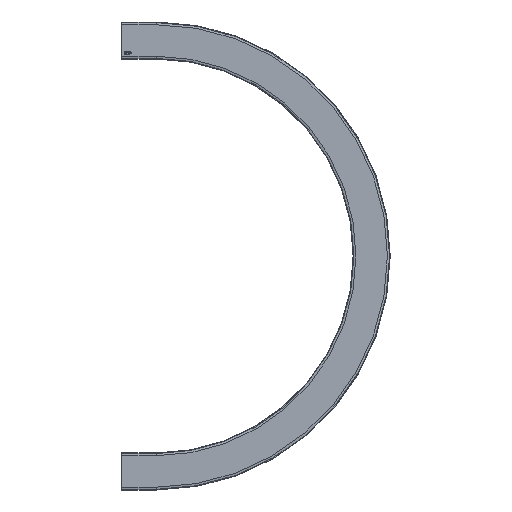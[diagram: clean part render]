
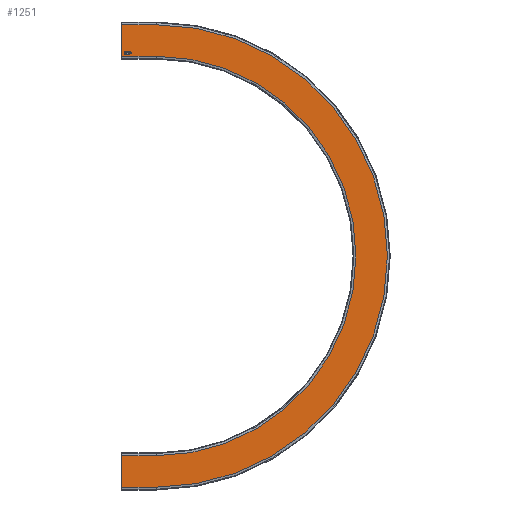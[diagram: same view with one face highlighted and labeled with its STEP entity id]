
A CAD part, top view. The second image highlights one B-rep face of the part: STEP entity #1251.
In plain terms, the highlighted planar face has unit normal (0, 0, 1).
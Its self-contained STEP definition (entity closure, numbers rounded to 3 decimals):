
#243=CARTESIAN_POINT('',(10.621,-29.49,0.0));
#244=VERTEX_POINT('',#243);
#251=CARTESIAN_POINT('',(13.541,-32.563,0.0));
#252=VERTEX_POINT('',#251);
#253=CARTESIAN_POINT('',(13.541,-32.563,0.0));
#254=CARTESIAN_POINT('',(12.676,-32.563,0.0));
#255=CARTESIAN_POINT('',(11.319,-31.731,0.0));
#256=CARTESIAN_POINT('',(10.621,-30.294,0.0));
#257=CARTESIAN_POINT('',(10.621,-29.49,0.0));
#258=QUASI_UNIFORM_CURVE('',2,(#253,#254,#255,#256,#257),.UNSPECIFIED.,.F.,.U.);
#259=EDGE_CURVE('',#252,#244,#258,.T.);
#292=CARTESIAN_POINT('',(16.456,-29.42,0.0));
#293=VERTEX_POINT('',#292);
#294=CARTESIAN_POINT('',(16.456,-29.42,0.0));
#295=CARTESIAN_POINT('',(16.456,-30.346,0.0));
#296=CARTESIAN_POINT('',(15.708,-31.81,0.0));
#297=CARTESIAN_POINT('',(14.331,-32.563,0.0));
#298=CARTESIAN_POINT('',(13.541,-32.563,0.0));
#299=QUASI_UNIFORM_CURVE('',2,(#294,#295,#296,#297,#298),.UNSPECIFIED.,.F.,.U.);
#300=EDGE_CURVE('',#293,#252,#299,.T.);
#333=CARTESIAN_POINT('',(13.541,-26.254,0.0));
#334=VERTEX_POINT('',#333);
#335=CARTESIAN_POINT('',(13.541,-26.254,0.0));
#336=CARTESIAN_POINT('',(14.387,-26.254,0.0));
#337=CARTESIAN_POINT('',(15.745,-27.063,0.0));
#338=CARTESIAN_POINT('',(16.456,-28.504,0.0));
#339=CARTESIAN_POINT('',(16.456,-29.42,0.0));
#340=QUASI_UNIFORM_CURVE('',2,(#335,#336,#337,#338,#339),.UNSPECIFIED.,.F.,.U.);
#341=EDGE_CURVE('',#334,#293,#340,.T.);
#369=CARTESIAN_POINT('',(10.621,-29.49,0.0));
#370=CARTESIAN_POINT('',(10.621,-27.97,0.0));
#371=CARTESIAN_POINT('',(12.253,-26.254,0.0));
#372=CARTESIAN_POINT('',(13.541,-26.254,0.0));
#373=QUASI_UNIFORM_CURVE('',2,(#369,#370,#371,#372),.UNSPECIFIED.,.F.,.U.);
#374=EDGE_CURVE('',#244,#334,#373,.T.);
#413=CARTESIAN_POINT('',(7.208,-32.461,0.0));
#414=VERTEX_POINT('',#413);
#421=CARTESIAN_POINT('',(8.017,-32.461,0.0));
#422=VERTEX_POINT('',#421);
#423=CARTESIAN_POINT('',(8.017,-32.461,0.0));
#424=DIRECTION('',(-1.0,0.0,0.0));
#425=VECTOR('',#424,0.809);
#426=LINE('',#423,#425);
#427=EDGE_CURVE('',#422,#414,#426,.T.);
#452=CARTESIAN_POINT('',(8.017,-27.082,0.0));
#453=VERTEX_POINT('',#452);
#454=CARTESIAN_POINT('',(8.017,-27.082,0.0));
#455=DIRECTION('',(0.0,-1.0,0.0));
#456=VECTOR('',#455,5.379);
#457=LINE('',#454,#456);
#458=EDGE_CURVE('',#453,#422,#457,.T.);
#483=CARTESIAN_POINT('',(10.035,-27.082,0.0));
#484=VERTEX_POINT('',#483);
#485=CARTESIAN_POINT('',(10.035,-27.082,0.0));
#486=DIRECTION('',(-1.0,0.0,0.0));
#487=VECTOR('',#486,2.018);
#488=LINE('',#485,#487);
#489=EDGE_CURVE('',#484,#453,#488,.T.);
#514=CARTESIAN_POINT('',(10.035,-26.361,0.0));
#515=VERTEX_POINT('',#514);
#516=CARTESIAN_POINT('',(10.035,-26.361,0.0));
#517=DIRECTION('',(0.0,-1.0,0.0));
#518=VECTOR('',#517,0.721);
#519=LINE('',#516,#518);
#520=EDGE_CURVE('',#515,#484,#519,.T.);
#545=CARTESIAN_POINT('',(5.2,-26.361,0.0));
#546=VERTEX_POINT('',#545);
#547=CARTESIAN_POINT('',(5.2,-26.361,0.0));
#548=DIRECTION('',(1.0,0.0,0.0));
#549=VECTOR('',#548,4.835);
#550=LINE('',#547,#549);
#551=EDGE_CURVE('',#546,#515,#550,.T.);
#576=CARTESIAN_POINT('',(5.2,-27.082,0.0));
#577=VERTEX_POINT('',#576);
#578=CARTESIAN_POINT('',(5.2,-27.082,0.0));
#579=DIRECTION('',(0.0,1.0,0.0));
#580=VECTOR('',#579,0.721);
#581=LINE('',#578,#580);
#582=EDGE_CURVE('',#577,#546,#581,.T.);
#607=CARTESIAN_POINT('',(7.208,-27.082,0.0));
#608=VERTEX_POINT('',#607);
#609=CARTESIAN_POINT('',(7.208,-27.082,0.0));
#610=DIRECTION('',(-1.0,0.0,0.0));
#611=VECTOR('',#610,2.009);
#612=LINE('',#609,#611);
#613=EDGE_CURVE('',#608,#577,#612,.T.);
#636=CARTESIAN_POINT('',(7.208,-32.461,0.0));
#637=DIRECTION('',(0.0,1.0,0.0));
#638=VECTOR('',#637,5.379);
#639=LINE('',#636,#638);
#640=EDGE_CURVE('',#414,#608,#639,.T.);
#877=CARTESIAN_POINT('',(17.493,-32.461,0.0));
#878=VERTEX_POINT('',#877);
#885=CARTESIAN_POINT('',(18.302,-32.461,0.0));
#886=VERTEX_POINT('',#885);
#887=CARTESIAN_POINT('',(18.302,-32.461,0.0));
#888=DIRECTION('',(-1.0,0.0,0.0));
#889=VECTOR('',#888,0.809);
#890=LINE('',#887,#889);
#891=EDGE_CURVE('',#886,#878,#890,.T.);
#916=CARTESIAN_POINT('',(18.302,-29.983,0.0));
#917=VERTEX_POINT('',#916);
#918=CARTESIAN_POINT('',(18.302,-29.983,0.0));
#919=DIRECTION('',(0.0,-1.0,0.0));
#920=VECTOR('',#919,2.478);
#921=LINE('',#918,#920);
#922=EDGE_CURVE('',#917,#886,#921,.T.);
#947=CARTESIAN_POINT('',(19.869,-29.983,0.0));
#948=VERTEX_POINT('',#947);
#949=CARTESIAN_POINT('',(19.869,-29.983,0.0));
#950=DIRECTION('',(-1.0,0.0,0.0));
#951=VECTOR('',#950,1.567);
#952=LINE('',#949,#951);
#953=EDGE_CURVE('',#948,#917,#952,.T.);
#983=CARTESIAN_POINT('',(22.152,-28.128,0.0));
#984=VERTEX_POINT('',#983);
#985=CARTESIAN_POINT('',(22.152,-28.128,0.0));
#986=CARTESIAN_POINT('',(22.152,-28.904,0.0));
#987=CARTESIAN_POINT('',(21.161,-29.983,0.0));
#988=CARTESIAN_POINT('',(19.869,-29.983,0.0));
#989=QUASI_UNIFORM_CURVE('',2,(#985,#986,#987,#988),.UNSPECIFIED.,.F.,.U.);
#990=EDGE_CURVE('',#984,#948,#989,.T.);
#1023=CARTESIAN_POINT('',(20.724,-26.422,0.0));
#1024=VERTEX_POINT('',#1023);
#1025=CARTESIAN_POINT('',(20.724,-26.422,0.0));
#1026=CARTESIAN_POINT('',(21.175,-26.496,0.0));
#1027=CARTESIAN_POINT('',(21.78,-26.914,0.0));
#1028=CARTESIAN_POINT('',(22.152,-27.672,0.0));
#1029=CARTESIAN_POINT('',(22.152,-28.128,0.0));
#1030=QUASI_UNIFORM_CURVE('',2,(#1025,#1026,#1027,#1028,#1029),.UNSPECIFIED.,.F.,.U.);
#1031=EDGE_CURVE('',#1024,#984,#1030,.T.);
#1058=CARTESIAN_POINT('',(19.794,-26.361,0.0));
#1059=VERTEX_POINT('',#1058);
#1060=CARTESIAN_POINT('',(19.794,-26.361,0.0));
#1061=CARTESIAN_POINT('',(20.403,-26.361,0.0));
#1062=CARTESIAN_POINT('',(20.724,-26.422,0.0));
#1063=QUASI_UNIFORM_CURVE('',2,(#1060,#1061,#1062),.UNSPECIFIED.,.F.,.U.);
#1064=EDGE_CURVE('',#1059,#1024,#1063,.T.);
#1089=CARTESIAN_POINT('',(17.493,-26.361,0.0));
#1090=VERTEX_POINT('',#1089);
#1091=CARTESIAN_POINT('',(17.493,-26.361,0.0));
#1092=DIRECTION('',(1.0,0.0,0.0));
#1093=VECTOR('',#1092,2.301);
#1094=LINE('',#1091,#1093);
#1095=EDGE_CURVE('',#1090,#1059,#1094,.T.);
#1118=CARTESIAN_POINT('',(17.493,-32.461,0.0));
#1119=DIRECTION('',(0.0,1.0,0.0));
#1120=VECTOR('',#1119,6.1);
#1121=LINE('',#1118,#1120);
#1122=EDGE_CURVE('',#878,#1090,#1121,.T.);
#1152=CARTESIAN_POINT('',(0.0,0.0,0.0));
#1153=DIRECTION('',(0.0,0.0,1.0));
#1154=DIRECTION('',(1.0,0.0,0.0));
#1155=AXIS2_PLACEMENT_3D('',#1152,#1153,#1154);
#1156=PLANE('',#1155);
#1157=CARTESIAN_POINT('',(0.0,36.5,0.0));
#1158=VERTEX_POINT('',#1157);
#1159=CARTESIAN_POINT('',(80.0,36.5,0.0));
#1160=VERTEX_POINT('',#1159);
#1161=CARTESIAN_POINT('',(0.0,36.5,0.0));
#1162=DIRECTION('',(1.0,0.0,0.0));
#1163=VECTOR('',#1162,80.0);
#1164=LINE('',#1161,#1163);
#1165=EDGE_CURVE('',#1158,#1160,#1164,.T.);
#1166=ORIENTED_EDGE('',*,*,#1165,.F.);
#1167=CARTESIAN_POINT('',(0.0,-36.5,0.0));
#1168=VERTEX_POINT('',#1167);
#1169=CARTESIAN_POINT('',(0.0,36.5,0.0));
#1170=DIRECTION('',(0.0,-1.0,0.0));
#1171=VECTOR('',#1170,73.0);
#1172=LINE('',#1169,#1171);
#1173=EDGE_CURVE('',#1158,#1168,#1172,.T.);
#1174=ORIENTED_EDGE('',*,*,#1173,.T.);
#1175=CARTESIAN_POINT('',(80.0,-36.5,0.0));
#1176=VERTEX_POINT('',#1175);
#1177=CARTESIAN_POINT('',(0.0,-36.5,0.0));
#1178=DIRECTION('',(1.0,0.0,0.0));
#1179=VECTOR('',#1178,80.0);
#1180=LINE('',#1177,#1179);
#1181=EDGE_CURVE('',#1168,#1176,#1180,.T.);
#1182=ORIENTED_EDGE('',*,*,#1181,.T.);
#1183=CARTESIAN_POINT('',(80.,-963.5,0.0));
#1184=VERTEX_POINT('',#1183);
#1185=CARTESIAN_POINT('',(80.0,-500.0,0.0));
#1186=DIRECTION('',(0.0,0.0,-1.0));
#1187=DIRECTION('',(0.0,1.0,0.0));
#1188=AXIS2_PLACEMENT_3D('',#1185,#1186,#1187);
#1189=CIRCLE('',#1188,463.5);
#1190=EDGE_CURVE('',#1176,#1184,#1189,.T.);
#1191=ORIENTED_EDGE('',*,*,#1190,.T.);
#1192=CARTESIAN_POINT('',(0.0,-963.5,0.0));
#1193=VERTEX_POINT('',#1192);
#1194=CARTESIAN_POINT('',(80.,-963.5,0.0));
#1195=DIRECTION('',(-1.0,0.0,0.0));
#1196=VECTOR('',#1195,80.);
#1197=LINE('',#1194,#1196);
#1198=EDGE_CURVE('',#1184,#1193,#1197,.T.);
#1199=ORIENTED_EDGE('',*,*,#1198,.T.);
#1200=CARTESIAN_POINT('',(0.0,-1036.5,0.0));
#1201=VERTEX_POINT('',#1200);
#1202=CARTESIAN_POINT('',(0.,-963.5,0.0));
#1203=DIRECTION('',(0.0,-1.0,0.0));
#1204=VECTOR('',#1203,73.);
#1205=LINE('',#1202,#1204);
#1206=EDGE_CURVE('',#1193,#1201,#1205,.T.);
#1207=ORIENTED_EDGE('',*,*,#1206,.T.);
#1208=CARTESIAN_POINT('',(80.,-1036.5,0.0));
#1209=VERTEX_POINT('',#1208);
#1210=CARTESIAN_POINT('',(80.,-1036.5,0.0));
#1211=DIRECTION('',(-1.0,0.0,0.0));
#1212=VECTOR('',#1211,80.);
#1213=LINE('',#1210,#1212);
#1214=EDGE_CURVE('',#1209,#1201,#1213,.T.);
#1215=ORIENTED_EDGE('',*,*,#1214,.F.);
#1216=CARTESIAN_POINT('',(80.0,-500.0,0.0));
#1217=DIRECTION('',(0.0,0.0,-1.0));
#1218=DIRECTION('',(0.0,1.0,0.0));
#1219=AXIS2_PLACEMENT_3D('',#1216,#1217,#1218);
#1220=CIRCLE('',#1219,536.5);
#1221=EDGE_CURVE('',#1160,#1209,#1220,.T.);
#1222=ORIENTED_EDGE('',*,*,#1221,.F.);
#1223=EDGE_LOOP('',(#1166,#1174,#1182,#1191,#1199,#1207,#1215,#1222));
#1224=FACE_OUTER_BOUND('',#1223,.T.);
#1225=ORIENTED_EDGE('',*,*,#259,.T.);
#1226=ORIENTED_EDGE('',*,*,#374,.T.);
#1227=ORIENTED_EDGE('',*,*,#341,.T.);
#1228=ORIENTED_EDGE('',*,*,#300,.T.);
#1229=EDGE_LOOP('',(#1225,#1226,#1227,#1228));
#1230=FACE_BOUND('',#1229,.T.);
#1231=ORIENTED_EDGE('',*,*,#427,.T.);
#1232=ORIENTED_EDGE('',*,*,#640,.T.);
#1233=ORIENTED_EDGE('',*,*,#613,.T.);
#1234=ORIENTED_EDGE('',*,*,#582,.T.);
#1235=ORIENTED_EDGE('',*,*,#551,.T.);
#1236=ORIENTED_EDGE('',*,*,#520,.T.);
#1237=ORIENTED_EDGE('',*,*,#489,.T.);
#1238=ORIENTED_EDGE('',*,*,#458,.T.);
#1239=EDGE_LOOP('',(#1231,#1232,#1233,#1234,#1235,#1236,#1237,#1238));
#1240=FACE_BOUND('',#1239,.T.);
#1241=ORIENTED_EDGE('',*,*,#891,.T.);
#1242=ORIENTED_EDGE('',*,*,#1122,.T.);
#1243=ORIENTED_EDGE('',*,*,#1095,.T.);
#1244=ORIENTED_EDGE('',*,*,#1064,.T.);
#1245=ORIENTED_EDGE('',*,*,#1031,.T.);
#1246=ORIENTED_EDGE('',*,*,#990,.T.);
#1247=ORIENTED_EDGE('',*,*,#953,.T.);
#1248=ORIENTED_EDGE('',*,*,#922,.T.);
#1249=EDGE_LOOP('',(#1241,#1242,#1243,#1244,#1245,#1246,#1247,#1248));
#1250=FACE_BOUND('',#1249,.T.);
#1251=ADVANCED_FACE('',(#1224,#1230,#1240,#1250),#1156,.T.);
